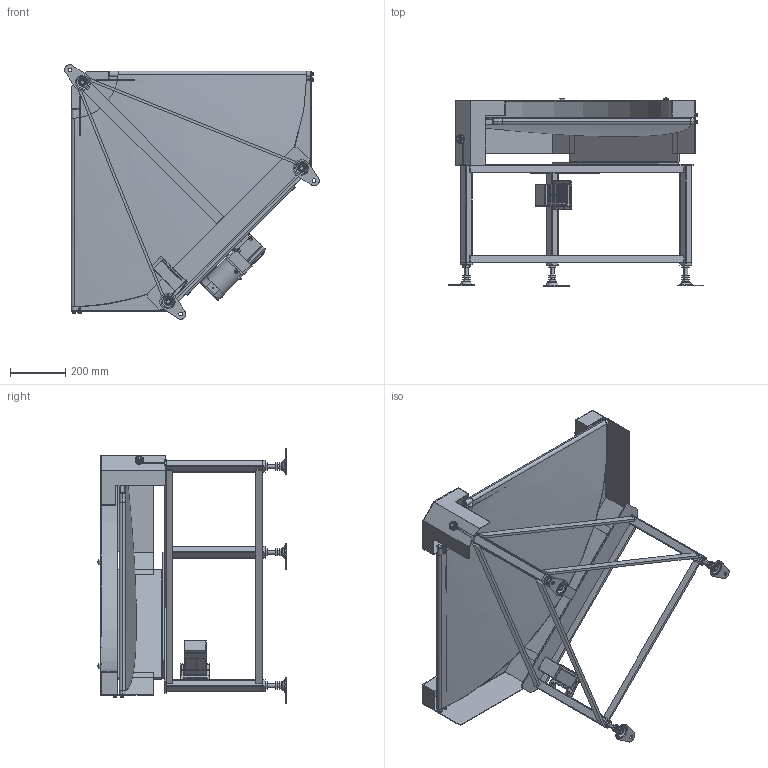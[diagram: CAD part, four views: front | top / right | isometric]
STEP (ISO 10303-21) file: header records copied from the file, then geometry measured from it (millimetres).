
FILE_DESCRIPTION (( 'STEP AP214' ), '1' );
FILE_NAME ('SWD-MBC3-HS-600-R_B.STEP', '2021-08-20T02:52:47', ( '' ), ( '' ), 'SwSTEP 2.0', 'SolidWorks 2017', '' );
FILE_SCHEMA (( 'AUTOMOTIVE_DESIGN' ));
Length unit declared in the file: millimetre
Products named in the file (26): KIF-30-M8; SWD-MBC3-90HS-S-070-4-原動ベース-500,600; 084 六角ﾎﾞﾙﾄ_三価クロメート_084六角ﾎﾞﾙﾄ(三価クロメート) M8 x 35; 084 平座金 JIS B 1256 並形_三価白_JIS B 1256 平座金(並)  6 三価白; cross recessed binding head screw_1_jis_JIS B 1111 Binding head screw M2 x 4 --4N; M8x15-MBC3; AJ-020; SWD-MBC3-HS-600-R_B; 脱落防止ネジ-M5x12; 安全カバー; 084 六角ﾎﾞﾙﾄ_三価クロメート_084六角ﾎﾞﾙﾄ(三価クロメート) M6 x 12; ギアヘッド_5GERH(0); AJ-020_呼び100; モータ_90GEW(34); モータ-MBC3; スピコンインバータ_R; SWD-GBC-S-430-10-脚-600; hexagon thin nut double chamfered_ab_jis_JIS B 1181 Hexagon thin nut - double chamfered A M16 --N; CB-S-010; VFD001L21A; 084 ばね座金 JIS B1251 一般用(2号)_三価白_JIS B 1251 No.2 6 三価白; SWD-GBC-S-220-2-内カバー; SWD-GBC90-僾乕儕+儀儖僩-600-R; M6x10-GBC; 購入品-寸切りボルトM16x1000_L110; SWD-GBC-S-330-5-外カバー-600
Assembly tree (38 placements, depth 3):
  SWD-MBC3-HS-600-R_B
    SWD-GBC-S-220-2-内カバー
    SWD-GBC90-僾乕儕+儀儖僩-600-R
    SWD-GBC-S-330-5-外カバー-600
    SWD-GBC-S-430-10-脚-600
    AJ-020_呼び100  x3
      AJ-020
      購入品-寸切りボルトM16x1000_L110
      hexagon thin nut double chamfered_ab_jis_JIS B 1181 Hexagon thin nut - double chamfered A M16 --N
    KIF-30-M8
    SWD-MBC3-90HS-S-070-4-原動ベース-500,600
    084 六角ﾎﾞﾙﾄ_三価クロメート_084六角ﾎﾞﾙﾄ(三価クロメート) M8 x 35
    M6x10-GBC  x4
      084 六角ﾎﾞﾙﾄ_三価クロメート_084六角ﾎﾞﾙﾄ(三価クロメート) M6 x 12
      084 ばね座金 JIS B1251 一般用(2号)_三価白_JIS B 1251 No.2 6 三価白
      084 平座金 JIS B 1256 並形_三価白_JIS B 1256 平座金(並)  6 三価白
    脱落防止ネジ-M5x12  x2
    スピコンインバータ_R
      VFD001L21A
      CB-S-010
    モータ-MBC3
      モータ_90GEW(34)
      ギアヘッド_5GERH(0)
      安全カバー
      cross recessed binding head screw_1_jis_JIS B 1111 Binding head screw M2 x 4 --4N  x2
    M8x15-MBC3  x4
Bounding box: 917.51 x 677.92 x 917.51 mm (x, y, z)
Volume: 8722258.7 mm3; surface area: 5803132.1 mm2
Topology: 65 solids, 65 shells, 2591 faces, 6410 edges, 4022 vertices
Faces by surface type: plane 1066, cylinder 1035, cone 312, bspline 106, torus 58, sphere 14
Entity records: 65094 total; most frequent: CARTESIAN_POINT 17886, DIRECTION 9109, ORIENTED_EDGE 8744, EDGE_CURVE 4372, AXIS2_PLACEMENT_3D 3374, VERTEX_POINT 2786, LINE 2361, VECTOR 2361
